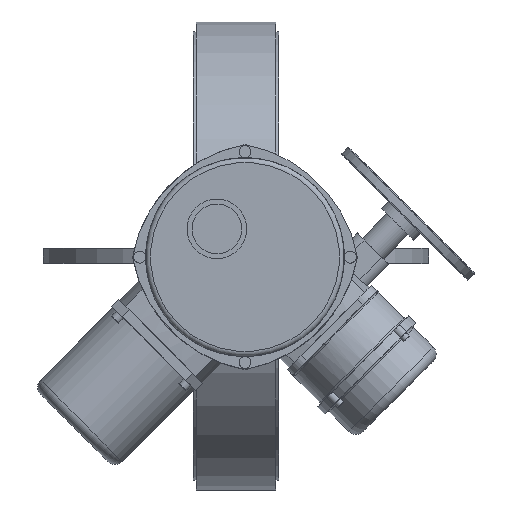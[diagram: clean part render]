
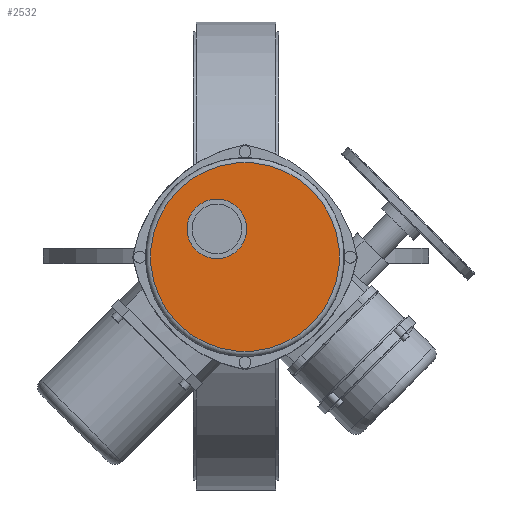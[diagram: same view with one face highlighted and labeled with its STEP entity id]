
A CAD part, top view. The second image highlights one B-rep face of the part: STEP entity #2532.
In plain terms, the highlighted planar face has unit normal (0, 0, 1).
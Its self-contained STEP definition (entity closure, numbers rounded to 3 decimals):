
#2532=ADVANCED_FACE('',(#5607,#5609),#5611,.T.);
#5607=FACE_BOUND('',#5608,.T.);
#5608=EDGE_LOOP('',(#7151));
#5609=FACE_BOUND('',#5610,.T.);
#5610=EDGE_LOOP('',(#7152));
#5611=PLANE('',#5612);
#5612=AXIS2_PLACEMENT_3D('',#5613,#5614,#5615);
#5613=CARTESIAN_POINT('',(9.192,-2.121,627.));
#5614=DIRECTION('',(0.,0.,1.));
#5615=DIRECTION('',(0.707,0.707,0.));
#7151=ORIENTED_EDGE('',*,*,#7881,.T.);
#7152=ORIENTED_EDGE('',*,*,#7944,.F.);
#7881=EDGE_CURVE('',#8969,#8969,#8970,.T.);
#7944=EDGE_CURVE('',#9071,#9071,#9072,.T.);
#8969=VERTEX_POINT('',#13752);
#8970=CIRCLE('',#13753,95.);
#9071=VERTEX_POINT('',#14013);
#9072=CIRCLE('',#14014,30.);
#13752=CARTESIAN_POINT('',(76.368,65.054,627.));
#13753=AXIS2_PLACEMENT_3D('',#13754,#13755,#13756);
#13754=CARTESIAN_POINT('',(9.192,-2.121,627.));
#13755=DIRECTION('',(0.,0.,1.));
#13756=DIRECTION('',(0.707,0.707,0.));
#14013=CARTESIAN_POINT('',(2.121,47.376,627.));
#14014=AXIS2_PLACEMENT_3D('',#14015,#14016,#14017);
#14015=CARTESIAN_POINT('',(-19.092,26.163,627.));
#14016=DIRECTION('',(0.,0.,1.));
#14017=DIRECTION('',(0.707,0.707,0.));
